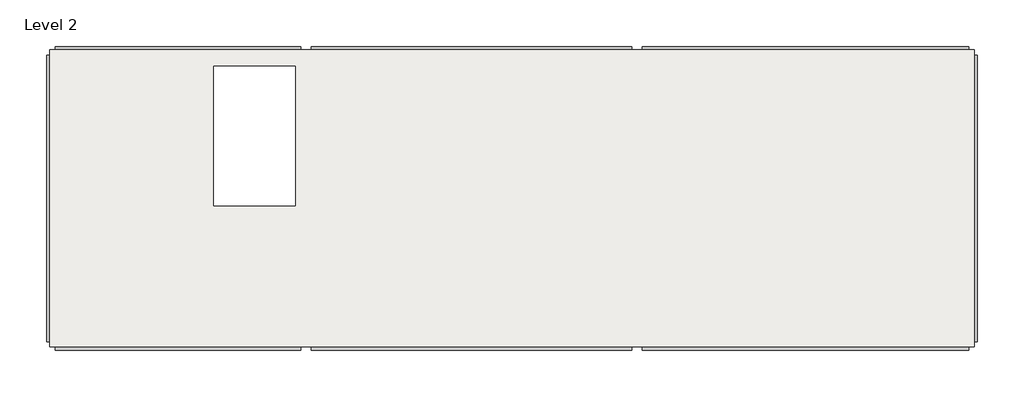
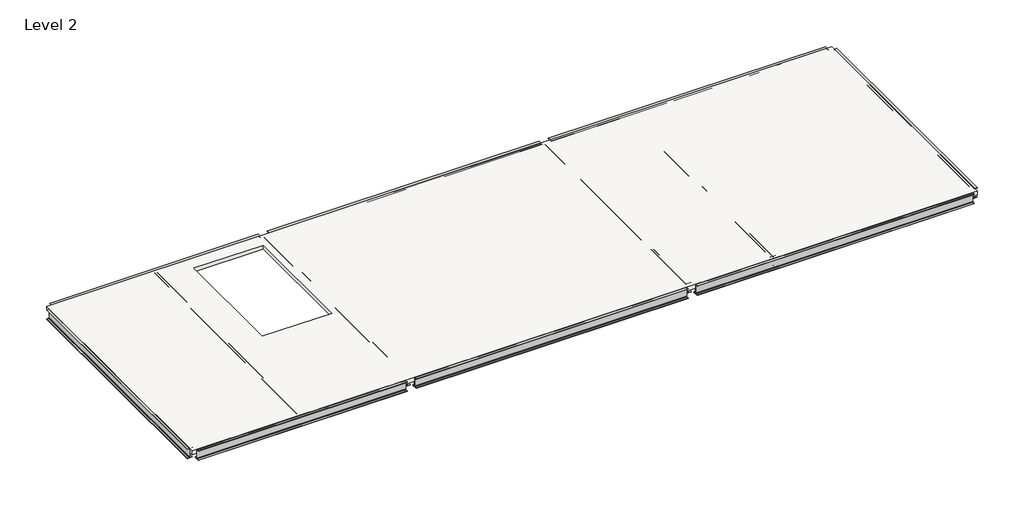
# One storey: 12 beams, 1 slab.
"""IFC4 building model written with IfcOpenShell, lengths in millimetres."""

from ifc_helpers import new_model, si_unit, frame, origin, place, context, project, spatial, polyline, outline, extrude, transform, mapped, element, save
from components import w_wide_flange_w12x26_3f871b78, w_wide_flange_w12x26_4810f4f7, w_wide_flange_w12x26_0d1df96e, w_wide_flange_w12x26_08aea776, w_wide_flange_w12x26_b457d077

model = new_model("IFC4")

# Units and contexts
model_context = context("Model", 3, world=origin())
ifc_project = project(units=[si_unit("LENGTHUNIT", "METRE", prefix="MILLI")], contexts=[model_context])

# Site, building, storey
site = spatial("IfcSite", under=ifc_project)
building = spatial("IfcBuilding", under=site)
storey = spatial("IfcBuildingStorey", under=building, Name="Level 2", Elevation=3048.0)

# Beams
placement = place(None, origin())
w_wide_flange_w12x26_shape = w_wide_flange_w12x26_3f871b78(model_context)
element("IfcBeam", 1, ObjectType="W-Wide Flange : W12X26", at=placement, inside=storey, context=model_context, shape_type="MappedRepresentation", body=[
    mapped(w_wide_flange_w12x26_shape, transform((-18444.2117074, 20379.1714933, 2892.821875), x_axis=(1.0, 0.0, 0.0), y_axis=(0.0, 1.0, 0.0), z_axis=(0.0, 0.0, 1.0))),
])
element("IfcBeam", 2, ObjectType="W-Wide Flange : W12X26", at=placement, inside=storey, context=model_context, shape_type="MappedRepresentation", body=[
    mapped(w_wide_flange_w12x26_shape, transform((-18444.2117074, 12590.8050464, 2892.821875), x_axis=(-1.0, 0.0, 0.0), y_axis=(0.0, -1.0, 0.0), z_axis=(0.0, 0.0, 1.0))),
])
w_wide_flange_w12x26_2_shape = w_wide_flange_w12x26_4810f4f7(model_context)
element("IfcBeam", 3, ObjectType="W-Wide Flange : W12X26", at=placement, inside=storey, context=model_context, shape_type="MappedRepresentation", body=[
    mapped(w_wide_flange_w12x26_2_shape, transform((-21803.8991943, 16484.9882699, 2892.821875), x_axis=(0.0, -1.0, 0.0), y_axis=(1.0, 0.0, 0.0), z_axis=(0.0, 0.0, 1.0))),
])
element("IfcBeam", 4, ObjectType="W-Wide Flange : W12X26", at=placement, inside=storey, context=model_context, shape_type="MappedRepresentation", body=[
    mapped(w_wide_flange_w12x26_2_shape, transform((-15084.5242206, 16484.9882699, 2892.821875), x_axis=(0.0, -1.0, 0.0), y_axis=(1.0, 0.0, 0.0), z_axis=(0.0, 0.0, 1.0))),
])
element("IfcBeam", 5, ObjectType="W-Wide Flange : W12X26", at=placement, inside=storey, context=model_context, shape_type="MappedRepresentation", body=[
    mapped(w_wide_flange_w12x26_2_shape, transform((-6411.4991943, 16484.9882699, 2892.821875), x_axis=(0.0, -1.0, 0.0), y_axis=(1.0, 0.0, 0.0), z_axis=(0.0, 0.0, 1.0))),
])
element("IfcBeam", 6, ObjectType="W-Wide Flange : W12X26", at=placement, inside=storey, context=model_context, shape_type="MappedRepresentation", body=[
    mapped(w_wide_flange_w12x26_2_shape, transform((2427.7008057, 16484.9882699, 2892.821875), x_axis=(0.0, 1.0, 0.0), y_axis=(-1.0, 0.0, 0.0), z_axis=(0.0, 0.0, 1.0))),
])
w_wide_flange_w12x26_3_shape = w_wide_flange_w12x26_0d1df96e(model_context)
element("IfcBeam", 7, ObjectType="W-Wide Flange : W12X26", at=placement, inside=storey, context=model_context, shape_type="MappedRepresentation", body=[
    mapped(w_wide_flange_w12x26_3_shape, transform((-10748.0117074, 20379.1714933, 2892.821875), x_axis=(1.0, 0.0, 0.0), y_axis=(0.0, 1.0, 0.0), z_axis=(0.0, 0.0, 1.0))),
])
element("IfcBeam", 8, ObjectType="W-Wide Flange : W12X26", at=placement, inside=storey, context=model_context, shape_type="MappedRepresentation", body=[
    mapped(w_wide_flange_w12x26_3_shape, transform((-10748.0117074, 12590.8050464, 2892.821875), x_axis=(1.0, 0.0, 0.0), y_axis=(0.0, 1.0, 0.0), z_axis=(0.0, 0.0, 1.0))),
])
w_wide_flange_w12x26_4_shape = w_wide_flange_w12x26_08aea776(model_context)
element("IfcBeam", 9, ObjectType="W-Wide Flange : W12X26", at=placement, inside=storey, context=model_context, shape_type="MappedRepresentation", body=[
    mapped(w_wide_flange_w12x26_4_shape, transform((-1991.8991943, 20379.1714933, 2892.821875), x_axis=(1.0, 0.0, 0.0), y_axis=(0.0, 1.0, 0.0), z_axis=(0.0, 0.0, 1.0))),
])
element("IfcBeam", 10, ObjectType="W-Wide Flange : W12X26", at=placement, inside=storey, context=model_context, shape_type="MappedRepresentation", body=[
    mapped(w_wide_flange_w12x26_4_shape, transform((-1991.8991943, 12590.8050464, 2892.821875), x_axis=(1.0, 0.0, 0.0), y_axis=(0.0, 1.0, 0.0), z_axis=(0.0, 0.0, 1.0))),
])
w_wide_flange_w12x26_5_shape = w_wide_flange_w12x26_b457d077(model_context)
element("IfcBeam", 11, ObjectType="W-Wide Flange : W12X26", at=placement, inside=storey, context=model_context, shape_type="MappedRepresentation", body=[
    mapped(w_wide_flange_w12x26_5_shape, transform((-18444.2117074, 16484.9882699, 2892.821875), x_axis=(0.0, -1.0, 0.0), y_axis=(1.0, 0.0, 0.0), z_axis=(0.0, 0.0, 1.0))),
])
element("IfcBeam", 12, ObjectType="W-Wide Flange : W12X26", at=placement, inside=storey, context=model_context, shape_type="MappedRepresentation", body=[
    mapped(w_wide_flange_w12x26_5_shape, transform((-3820.6991943, 16484.9882699, 2892.821875), x_axis=(0.0, -1.0, 0.0), y_axis=(1.0, 0.0, 0.0), z_axis=(0.0, 0.0, 1.0))),
])

# Slab
element("IfcSlab", 13, ObjectType="3\" LW Concrete on 2\" Metal Deck", at=placement, inside=storey, context=model_context, shape_type="SweptSolid", body=[
    extrude(outline(polyline([(2427.7008057, 20379.1714933), (2427.7008057, 12590.8050464), (-21803.8991943, 12590.8050464), (-21803.8991943, 20379.1714933), (2427.7008057, 20379.1714933)]), holes=[polyline([(-17505.2738786, 16289.165023), (-15371.6738786, 16289.165023), (-15371.6738786, 19946.765023), (-17505.2738786, 19946.765023), (-17505.2738786, 16289.165023)])]), frame((0.0, 0.0, 2921.0), z_axis=(0.0, 0.0, 1.0), x_axis=(1.0, 0.0, 0.0)), (0.0, 0.0, 1.0), 127.0),
])

save(model, "model.ifc")
